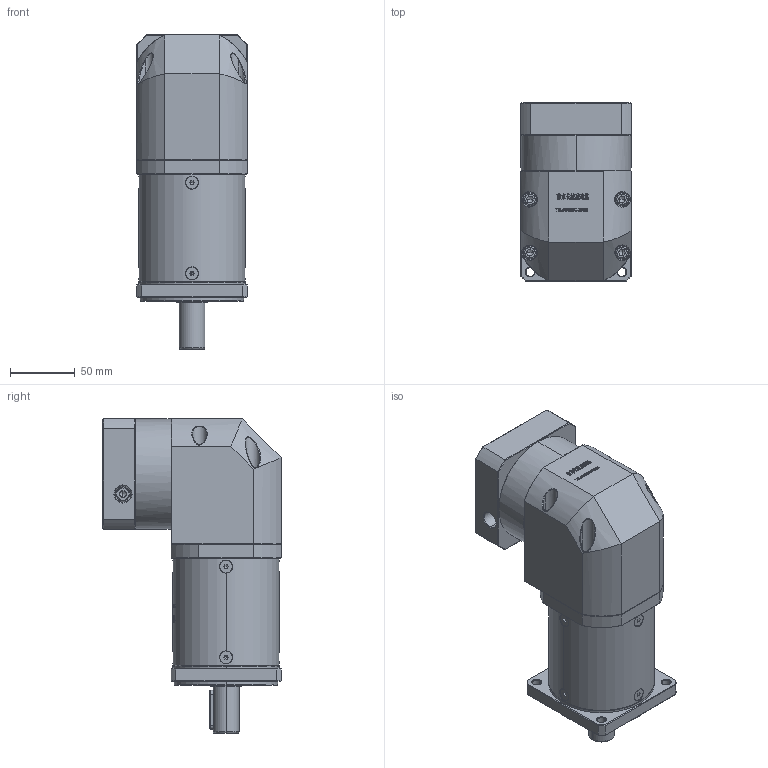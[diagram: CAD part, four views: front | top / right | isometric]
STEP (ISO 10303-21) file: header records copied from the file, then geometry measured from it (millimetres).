
FILE_DESCRIPTION (( 'STEP AP214' ), '1' );
FILE_NAME ('ZF80-D20-L3-19-70-90-M5.step', '2022-05-08T11:58:40', ( '' ), ( 'Microsoft' ), 'SwSTEP 2.0', 'SolidWorks 2016', '' );
FILE_SCHEMA (( 'AUTOMOTIVE_DESIGN' ));
Length unit declared in the file: millimetre
Products named in the file (1): ZF80-D20-L3-19-70-90-M5
Bounding box: 85 x 137.6 x 242.5 mm (x, y, z)
Volume: 1462181.9 mm3; surface area: 145073.8 mm2
Topology: 13 solids, 13 shells, 3084 faces, 8103 edges, 5167 vertices
Faces by surface type: plane 1619, bspline 624, cylinder 467, cone 360, torus 14
Entity records: 167888 total; most frequent: CARTESIAN_POINT 63783, ORIENTED_EDGE 16114, DIRECTION 12081, EDGE_CURVE 8057, VERTEX_POINT 5167, LINE 4995, VECTOR 4995, AXIS2_PLACEMENT_3D 3543
